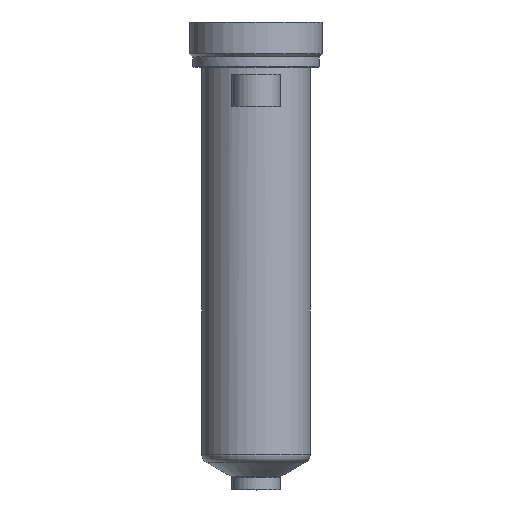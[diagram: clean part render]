
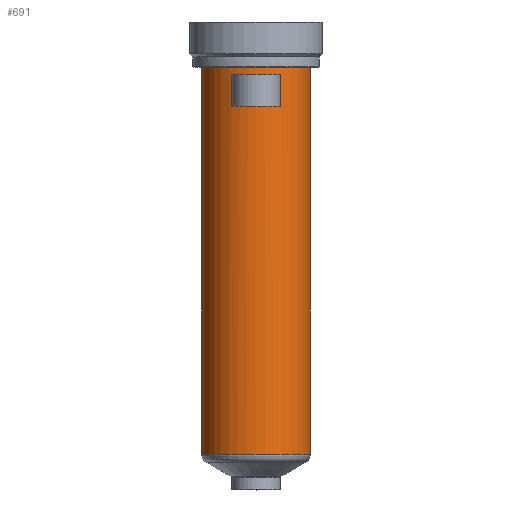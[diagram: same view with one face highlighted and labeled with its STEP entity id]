
A CAD part, top view. The second image highlights one B-rep face of the part: STEP entity #691.
In plain terms, the highlighted cylindrical face has radius 18 mm (diameter 36 mm), a partial arc.
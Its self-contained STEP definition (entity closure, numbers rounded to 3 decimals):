
#187=DIRECTION('',(0.,-1.,0.));
#188=VECTOR('',#187,128.206);
#189=CARTESIAN_POINT('',(18.,0.,0.));
#190=LINE('',#189,#188);
#191=CARTESIAN_POINT('',(0.,-128.206,0.));
#192=DIRECTION('',(0.,1.,0.));
#193=DIRECTION('',(-1.,0.,0.));
#194=AXIS2_PLACEMENT_3D('',#191,#192,#193);
#196=DIRECTION('',(0.,1.,0.));
#197=VECTOR('',#196,128.206);
#198=CARTESIAN_POINT('',(-18.,-128.206,0.));
#199=LINE('',#198,#197);
#200=CARTESIAN_POINT('',(0.,0.,0.));
#201=DIRECTION('',(0.,1.,0.));
#202=DIRECTION('',(-1.,0.,0.));
#203=AXIS2_PLACEMENT_3D('',#200,#201,#202);
#281=DIRECTION('',(0.,-1.,0.));
#282=VECTOR('',#281,10.5);
#283=CARTESIAN_POINT('',(-8.,-2.5,16.125));
#284=LINE('',#283,#282);
#285=CARTESIAN_POINT('',(0.,-13.,0.));
#286=DIRECTION('',(0.,1.,0.));
#287=DIRECTION('',(-0.444,0.,0.896));
#288=AXIS2_PLACEMENT_3D('',#285,#286,#287);
#311=CARTESIAN_POINT('',(0.,-2.5,0.));
#312=DIRECTION('',(0.,-1.,0.));
#313=DIRECTION('',(0.444,0.,0.896));
#314=AXIS2_PLACEMENT_3D('',#311,#312,#313);
#329=DIRECTION('',(0.,-1.,0.));
#330=VECTOR('',#329,10.5);
#331=CARTESIAN_POINT('',(8.,-2.5,16.125));
#332=LINE('',#331,#330);
#390=CARTESIAN_POINT('',(-18.,0.,0.));
#391=CARTESIAN_POINT('',(18.,0.,0.));
#392=VERTEX_POINT('',#390);
#393=VERTEX_POINT('',#391);
#402=CARTESIAN_POINT('',(-8.,-2.5,16.125));
#403=VERTEX_POINT('',#402);
#404=CARTESIAN_POINT('',(8.,-2.5,16.125));
#405=VERTEX_POINT('',#404);
#438=CARTESIAN_POINT('',(18.,-128.206,0.));
#439=VERTEX_POINT('',#438);
#448=CARTESIAN_POINT('',(-18.,-128.206,0.));
#449=VERTEX_POINT('',#448);
#450=CARTESIAN_POINT('',(-8.,-13.,16.125));
#451=CARTESIAN_POINT('',(8.,-13.,16.125));
#452=VERTEX_POINT('',#450);
#453=VERTEX_POINT('',#451);
#669=CARTESIAN_POINT('',(0.,16.4,0.));
#670=DIRECTION('',(0.,-1.,0.));
#671=DIRECTION('',(-1.,0.,0.));
#672=AXIS2_PLACEMENT_3D('',#669,#670,#671);
#673=CYLINDRICAL_SURFACE('',#672,18.);
#674=ORIENTED_EDGE('',*,*,#663,.T.);
#676=ORIENTED_EDGE('',*,*,#675,.F.);
#677=ORIENTED_EDGE('',*,*,#659,.T.);
#678=ORIENTED_EDGE('',*,*,#649,.T.);
#679=EDGE_LOOP('',(#674,#676,#677,#678));
#680=FACE_OUTER_BOUND('',#679,.F.);
#682=ORIENTED_EDGE('',*,*,#681,.T.);
#684=ORIENTED_EDGE('',*,*,#683,.T.);
#686=ORIENTED_EDGE('',*,*,#685,.F.);
#688=ORIENTED_EDGE('',*,*,#687,.T.);
#689=EDGE_LOOP('',(#682,#684,#686,#688));
#690=FACE_BOUND('',#689,.F.);
#691=ADVANCED_FACE('',(#680,#690),#673,.T.);
#195=CIRCLE('',#194,18.);
#204=CIRCLE('',#203,18.);
#289=CIRCLE('',#288,18.);
#315=CIRCLE('',#314,18.);
#649=EDGE_CURVE('',#392,#393,#204,.T.);
#659=EDGE_CURVE('',#449,#392,#199,.T.);
#663=EDGE_CURVE('',#393,#439,#190,.T.);
#675=EDGE_CURVE('',#449,#439,#195,.T.);
#681=EDGE_CURVE('',#403,#452,#284,.T.);
#683=EDGE_CURVE('',#452,#453,#289,.T.);
#685=EDGE_CURVE('',#405,#453,#332,.T.);
#687=EDGE_CURVE('',#405,#403,#315,.T.);
